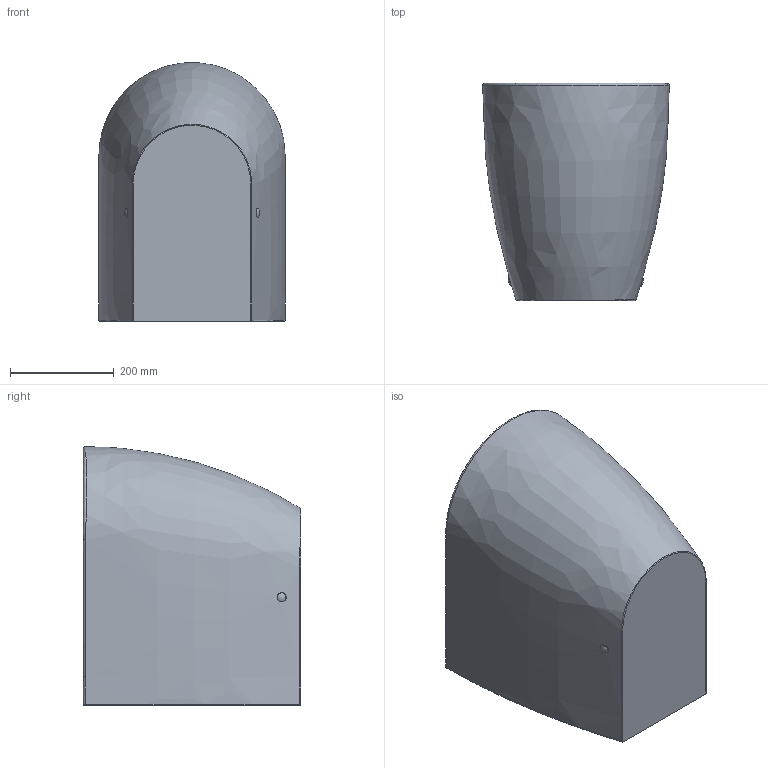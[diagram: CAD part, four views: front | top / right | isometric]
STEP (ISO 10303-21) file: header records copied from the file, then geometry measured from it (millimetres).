
FILE_DESCRIPTION (( 'STEP AP203' ), '1' );
FILE_NAME ('CMBIT0050000M_PILETTA.STEP', '2025-04-23T13:48:22', ( '' ), ( '' ), 'SwSTEP 2.0', 'SolidWorks 2024', '' );
FILE_SCHEMA (( 'CONFIG_CONTROL_DESIGN' ));
Length unit declared in the file: millimetre
Products named in the file (4): tappo fix terra; PILETTA; CMBIT005000M; CMBIT0050000M_PILETTA
Assembly tree (4 placements, depth 2):
  CMBIT0050000M_PILETTA
    CMBIT005000M
    PILETTA
    tappo fix terra  x2
Bounding box: 360.08 x 420 x 499.69 mm (x, y, z)
Volume: 48459718.9 mm3; surface area: 971294.7 mm2
Topology: 4 solids, 4 shells, 66 faces, 136 edges, 88 vertices
Faces by surface type: bspline 20, plane 18, cylinder 15, torus 8, sphere 3, cone 2
Full cylindrical faces by diameter (mm): 3 x2, 10 x1, 18 x2, 20 x1, 32 x1, 35 x1, 40 x1, 47 x1, 62 x2
Entity records: 5583 total; most frequent: CARTESIAN_POINT 4098, ORIENTED_EDGE 200, DIRECTION 195, EDGE_CURVE 100, AXIS2_PLACEMENT_3D 92, EDGE_LOOP 89, FACE_OUTER_BOUND 76, VERTEX_POINT 75
